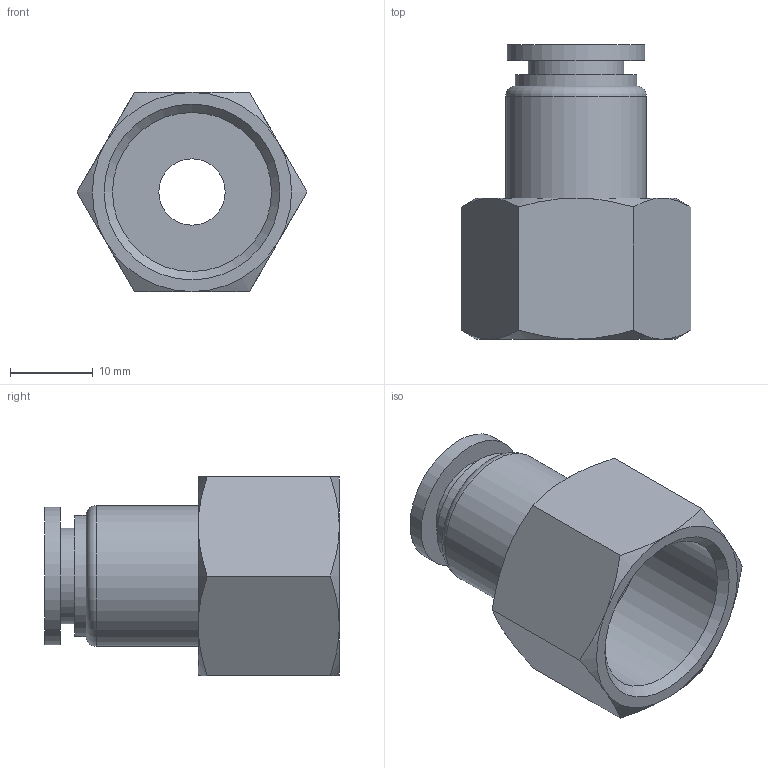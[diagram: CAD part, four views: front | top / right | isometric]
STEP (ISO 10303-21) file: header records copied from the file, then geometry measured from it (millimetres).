
FILE_DESCRIPTION(/* description */ (''),/* implementation_level */ '2;1');
FILE_NAME(/* name */ 'S:\_Tecnico\ArchivioUT\_Disegni3D ingombri\DISEGNI 3D per ingombri\RP\RP 52\RP521210.stp',/* time_stamp */ '2019-07-30T08:25:12+02:00',/* author */ ('ufficiotecnico3'),/* organization */ (''),/* preprocessor_version */ 'ST-DEVELOPER v18',/* originating_system */ 'Autodesk Inventor 2020',/* authorisation */ '');
FILE_SCHEMA (('AUTOMOTIVE_DESIGN { 1 0 10303 214 3 1 1 }'));
Length unit declared in the file: millimetre
Products named in the file (1): RP521210
Bounding box: 27.71 x 35.5 x 24 mm (x, y, z)
Volume: 6600.9 mm3; surface area: 4878 mm2
Topology: 1 solids, 1 shells, 35 faces, 84 edges, 56 vertices
Faces by surface type: cone 14, plane 13, cylinder 7, torus 1
Full cylindrical faces by diameter (mm): 8 x1, 10 x1, 11.5 x1, 14.6 x1, 16.6 x1, 17 x1, 19.172 x1
Entity records: 1064 total; most frequent: CARTESIAN_POINT 224, DIRECTION 177, ORIENTED_EDGE 168, EDGE_CURVE 84, AXIS2_PLACEMENT_3D 81, VERTEX_POINT 56, CIRCLE 45, EDGE_LOOP 42
